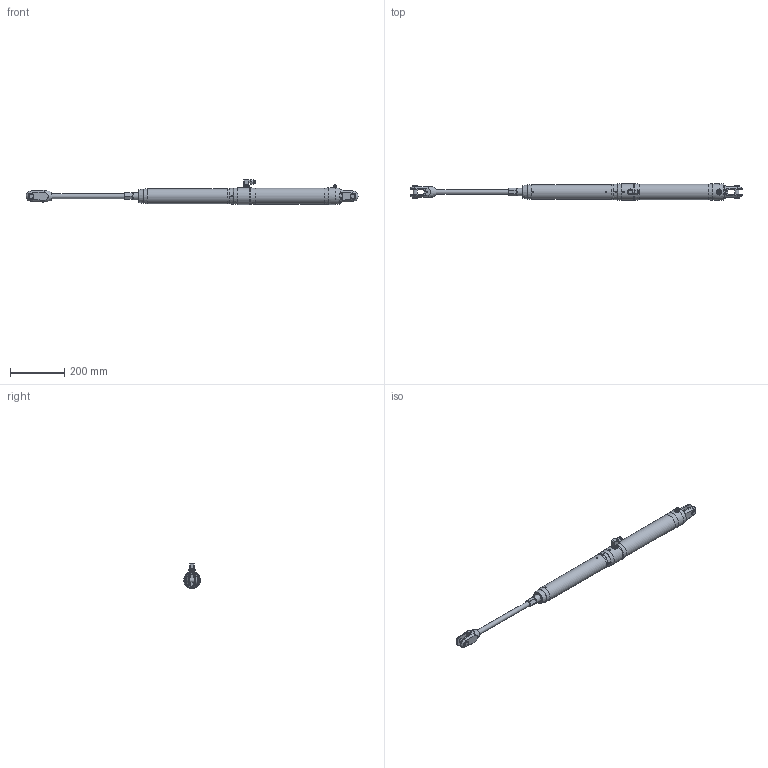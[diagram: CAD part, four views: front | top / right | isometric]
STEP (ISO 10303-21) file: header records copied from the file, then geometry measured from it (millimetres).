
FILE_DESCRIPTION(/* description */ (''),/* implementation_level */ '2;1');
FILE_NAME(/* name */ 'Q:\AA BRAND HYDRAULICS\HYDRAULICS FAMILY DIRECTORY\HYDRAULICS\CYLINDERS\MECHANICAL LOCK RAMS\ALUMINIUM - STAINLESS SINGLE ACTING (-0012 To -0150)\MSA-0017-S0260-NP-71\MSA-0017-S0260-NP-71 (Open).stp',/* time_stamp */ '2018-04-25T15:07:30+01:00',/* author */ ('Lorena'),/* organization */ (''),/* preprocessor_version */ 'ST-DEVELOPER v17',/* originating_system */ 'Autodesk Inventor 2018',/* authorisation */ '');
FILE_SCHEMA (('AUTOMOTIVE_DESIGN { 1 0 10303 214 3 1 1 }'));
Length unit declared in the file: millimetre
Products named in the file (1): MSA-0017-S0260-NP-71 (Open))
Bounding box: 1219.15 x 61.4 x 92.2 mm (x, y, z)
Volume: 2162996.6 mm3; surface area: 194853.6 mm2
Topology: 2 solids, 4 shells, 508 faces, 1332 edges, 867 vertices
Faces by surface type: plane 285, cone 129, cylinder 79, torus 6, bspline 5, sphere 4
Full cylindrical faces by diameter (mm): 4 x5, 4.4 x1, 5 x5, 5.1 x1, 7 x1, 9 x1, 10 x2, 11.11 x1, 11.157 x1, 11.5 x1, 11.8 x1, 12 x3, 12.157 x1, 13 x1, 13.157 x2, 14.5 x2, 15.88 x2, 17.5 x1, 18.3 x3, 19.85 x2, 27 x2, 28 x2, 31 x1, 55 x1, 58.4 x1, 61.4 x4
Entity records: 17094 total; most frequent: CARTESIAN_POINT 4232, ORIENTED_EDGE 2644, DIRECTION 2555, EDGE_CURVE 1322, AXIS2_PLACEMENT_3D 984, VERTEX_POINT 867, LINE 587, VECTOR 587
